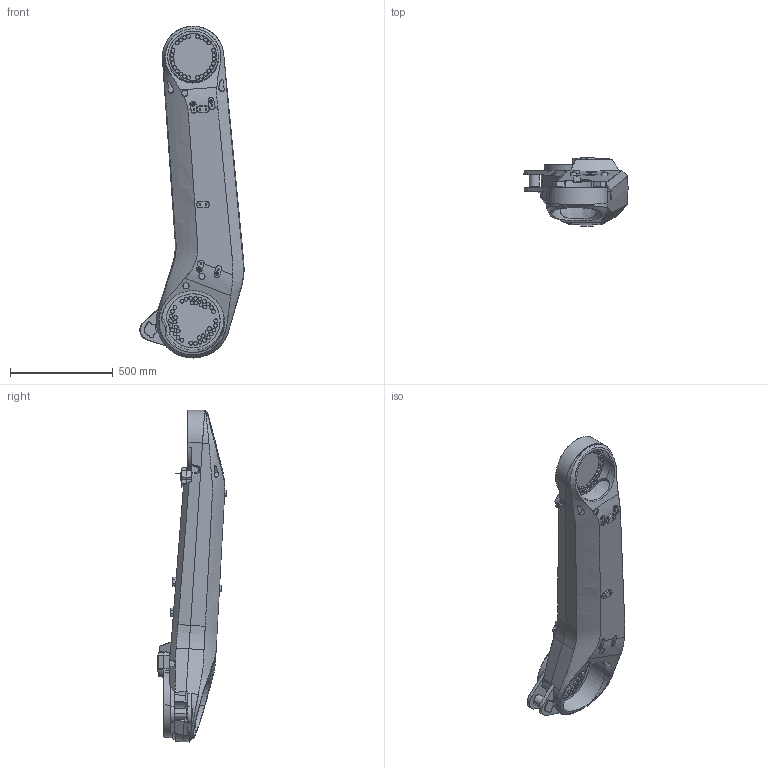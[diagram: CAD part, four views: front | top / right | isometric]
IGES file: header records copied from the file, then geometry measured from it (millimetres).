
Start section: SolidWorks IGES file using analytic representation for surfaces
Global section: file name: C:\Data\SAP_DOC\LW\IRB 6720\IRB6720-LID-MH_140kg-320_OC_01_SW_J\IRB6720-LID-MH_140kg-320_OC_01_IGES_J\IRB6720-LID_140kg-320_OC_00_LINK02_CAD.igs; native system: SolidWorks 2024; preprocessor: SolidWorks 2024; author: SEJOVAS3; date: 260610.140051; units: millimetre
Bounding box: 508.11 x 336 x 1618.53 mm (x, y, z)
Surface area: 1997231.3 mm2 (no closed solid volume)
Topology: 0 solids, 0 shells, 782 faces, 17484 edges, 17450 vertices
Faces by surface type: bspline 443, revolution 339
